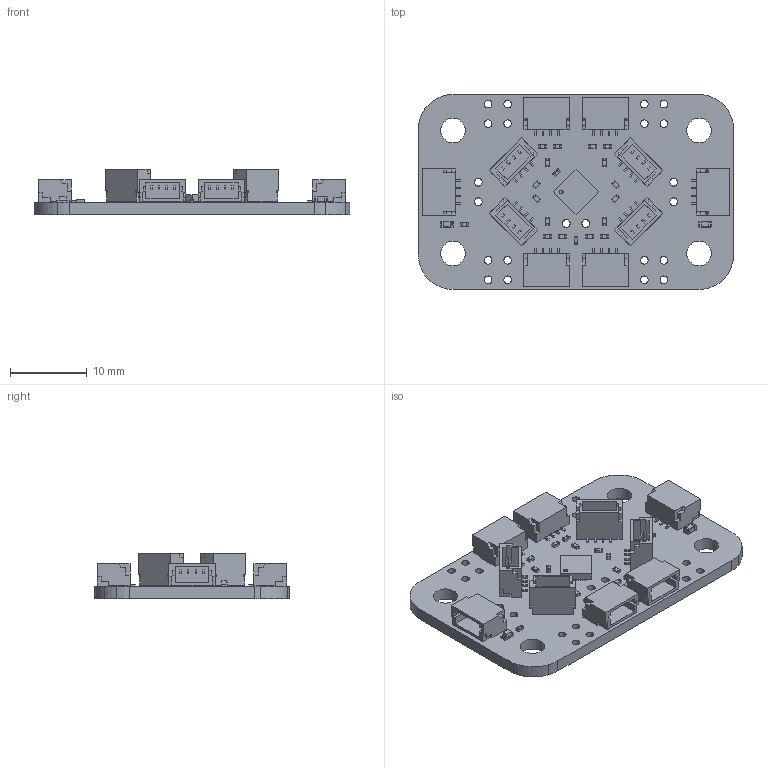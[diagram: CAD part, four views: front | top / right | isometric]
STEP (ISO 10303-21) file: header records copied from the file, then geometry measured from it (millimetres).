
FILE_DESCRIPTION(('Open CASCADE Model'),'2;1');
FILE_NAME('Open CASCADE Shape Model','2026-06-09T16:01:40',('Author'),( 'Open CASCADE'),'Open CASCADE STEP processor 7.5','Open CASCADE 7.5' ,'Unknown');
FILE_SCHEMA(('AUTOMOTIVE_DESIGN { 1 0 10303 214 1 1 1 1 }'));
Length unit declared in the file: millimetre
Products named in the file (47): PCB; Board; Open CASCADE STEP translator 7.5 3.1.1; C2; CAP-0603; C1; CAP-0402; U1; 8973024208; Open CASCADE STEP translator 6.8 7.1; Body; Open CASCADE STEP translator 6.8 7.2.1; Thermal_Shape; Pin_Shape; R18; RES-0402; R17; R16; R15; R14; R13; R12; R11; R10; R9; R8; R7; R6; R5; R4; R3; R2; J10; SM04B-SRSS-TB_RGB12040119; J9; Unnamed-BM04B-SRSS; J1; D1; HSMx-190; R1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
Assembly tree (94 placements, depth 5):
  PCB
    Board
      Open CASCADE STEP translator 7.5 3.1.1
    C2
      CAP-0603
    C1
      CAP-0402
    U1
      8973024208
        Open CASCADE STEP translator 6.8 7.1
        Body
          Open CASCADE STEP translator 6.8 7.2.1
        Thermal_Shape
        Pin_Shape  x24
    R18
      RES-0402
    R17
      RES-0402
    R16
      RES-0402
    R15
      RES-0402
    R14
      RES-0402
    R13
      RES-0402
    R12
      RES-0402
    R11
      RES-0402
    R10
      RES-0402
    R9
      RES-0402
    R8
      RES-0402
    R7
      RES-0402
    R6
      RES-0402
    R5
      RES-0402
    R4
      RES-0402
    R3
      RES-0402
    R2
      RES-0402
    J10
      SM04B-SRSS-TB_RGB12040119
    J9
      Unnamed-BM04B-SRSS
    J1
      SM04B-SRSS-TB_RGB12040119
    D1
      HSMx-190
    R1
      RES-0402
    J8
      SM04B-SRSS-TB_RGB12040119
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Bounding box: 41 x 25.36 x 5.93 mm (x, y, z)
Volume: 2023.7 mm3; surface area: 4077.2 mm2
Topology: 58 solids, 59 shells, 1945 faces, 5263 edges, 3467 vertices
Faces by surface type: plane 1728, cylinder 177, sphere 20, bspline 16, torus 4
Full cylindrical faces by diameter (mm): 0.07 x1, 0.512 x1, 1 x22, 3.2 x4
Entity records: 16954 total; most frequent: CARTESIAN_POINT 2970, DIRECTION 2480, ORIENTED_EDGE 2365, EDGE_CURVE 1183, LINE 922, VECTOR 922, AXIS2_PLACEMENT_3D 779, VERTEX_POINT 745
